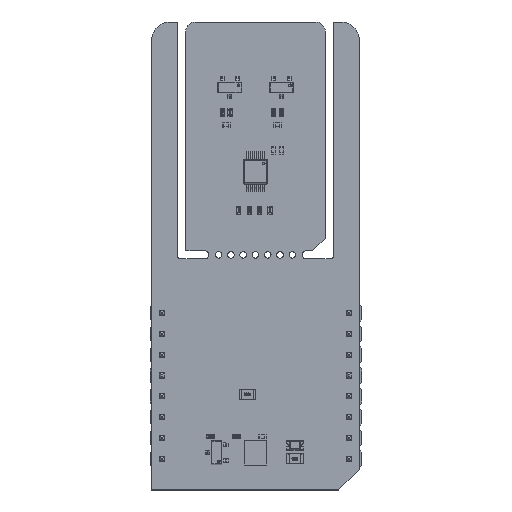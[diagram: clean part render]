
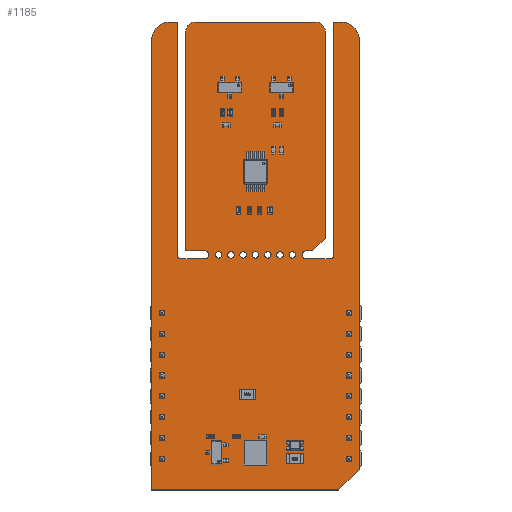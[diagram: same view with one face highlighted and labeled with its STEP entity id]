
A CAD part, top view. The second image highlights one B-rep face of the part: STEP entity #1185.
In plain terms, the highlighted planar face has unit normal (0, 0, 1).
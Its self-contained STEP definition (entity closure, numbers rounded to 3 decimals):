
#148 = VERTEX_POINT('',#149);
#149 = CARTESIAN_POINT('',(1.905,24.8,1.59));
#155 = EDGE_CURVE('',#148,#156,#158,.T.);
#156 = VERTEX_POINT('',#157);
#157 = CARTESIAN_POINT('',(2.305,24.4,1.59));
#158 = CIRCLE('',#159,0.399);
#159 = AXIS2_PLACEMENT_3D('',#160,#161,#162);
#160 = CARTESIAN_POINT('',(2.304,24.799,1.59));
#161 = DIRECTION('',(0.,0.,1.));
#162 = DIRECTION('',(-1.,0.001,0.));
#188 = EDGE_CURVE('',#156,#189,#191,.T.);
#189 = VERTEX_POINT('',#190);
#190 = CARTESIAN_POINT('',(5.23,24.4,1.59));
#191 = LINE('',#192,#193);
#192 = CARTESIAN_POINT('',(2.305,24.4,1.59));
#193 = VECTOR('',#194,1.);
#194 = DIRECTION('',(1.,0.,0.));
#219 = EDGE_CURVE('',#189,#220,#222,.T.);
#220 = VERTEX_POINT('',#221);
#221 = CARTESIAN_POINT('',(5.23,25.4,1.59));
#222 = CIRCLE('',#223,0.5);
#223 = AXIS2_PLACEMENT_3D('',#224,#225,#226);
#224 = CARTESIAN_POINT('',(5.23,24.9,1.59));
#225 = DIRECTION('',(0.,0.,1.));
#226 = DIRECTION('',(-0.,-1.,0.));
#252 = EDGE_CURVE('',#220,#253,#255,.T.);
#253 = VERTEX_POINT('',#254);
#254 = CARTESIAN_POINT('',(2.921,25.4,1.59));
#255 = LINE('',#256,#257);
#256 = CARTESIAN_POINT('',(5.23,25.4,1.59));
#257 = VECTOR('',#258,1.);
#258 = DIRECTION('',(-1.,0.,0.));
#283 = EDGE_CURVE('',#253,#284,#286,.T.);
#284 = VERTEX_POINT('',#285);
#285 = CARTESIAN_POINT('',(2.921,52.197,1.59));
#286 = LINE('',#287,#288);
#287 = CARTESIAN_POINT('',(2.921,25.4,1.59));
#288 = VECTOR('',#289,1.);
#289 = DIRECTION('',(0.,1.,0.));
#314 = EDGE_CURVE('',#284,#315,#317,.T.);
#315 = VERTEX_POINT('',#316);
#316 = CARTESIAN_POINT('',(4.064,53.34,1.59));
#317 = CIRCLE('',#318,1.144);
#318 = AXIS2_PLACEMENT_3D('',#319,#320,#321);
#319 = CARTESIAN_POINT('',(4.065,52.196,1.59));
#320 = DIRECTION('',(0.,0.,-1.));
#321 = DIRECTION('',(-1.,0.001,0.));
#347 = EDGE_CURVE('',#315,#348,#350,.T.);
#348 = VERTEX_POINT('',#349);
#349 = CARTESIAN_POINT('',(18.796,53.34,1.59));
#350 = LINE('',#351,#352);
#351 = CARTESIAN_POINT('',(4.064,53.34,1.59));
#352 = VECTOR('',#353,1.);
#353 = DIRECTION('',(1.,0.,0.));
#378 = EDGE_CURVE('',#348,#379,#381,.T.);
#379 = VERTEX_POINT('',#380);
#380 = CARTESIAN_POINT('',(19.939,52.197,1.59));
#381 = CIRCLE('',#382,1.144);
#382 = AXIS2_PLACEMENT_3D('',#383,#384,#385);
#383 = CARTESIAN_POINT('',(18.795,52.196,1.59));
#384 = DIRECTION('',(0.,0.,-1.));
#385 = DIRECTION('',(0.001,1.,0.));
#411 = EDGE_CURVE('',#379,#412,#414,.T.);
#412 = VERTEX_POINT('',#413);
#413 = CARTESIAN_POINT('',(19.939,26.924,1.59));
#414 = LINE('',#415,#416);
#415 = CARTESIAN_POINT('',(19.939,52.197,1.59));
#416 = VECTOR('',#417,1.);
#417 = DIRECTION('',(0.,-1.,0.));
#442 = EDGE_CURVE('',#412,#443,#445,.T.);
#443 = VERTEX_POINT('',#444);
#444 = CARTESIAN_POINT('',(18.415,25.4,1.59));
#445 = LINE('',#446,#447);
#446 = CARTESIAN_POINT('',(19.939,26.924,1.59));
#447 = VECTOR('',#448,1.);
#448 = DIRECTION('',(-0.707,-0.707,0.));
#473 = EDGE_CURVE('',#443,#474,#476,.T.);
#474 = VERTEX_POINT('',#475);
#475 = CARTESIAN_POINT('',(17.63,25.4,1.59));
#476 = LINE('',#477,#478);
#477 = CARTESIAN_POINT('',(18.415,25.4,1.59));
#478 = VECTOR('',#479,1.);
#479 = DIRECTION('',(-1.,0.,0.));
#504 = EDGE_CURVE('',#474,#505,#507,.T.);
#505 = VERTEX_POINT('',#506);
#506 = CARTESIAN_POINT('',(17.63,24.4,1.59));
#507 = CIRCLE('',#508,0.5);
#508 = AXIS2_PLACEMENT_3D('',#509,#510,#511);
#509 = CARTESIAN_POINT('',(17.63,24.9,1.59));
#510 = DIRECTION('',(0.,-0.,1.));
#511 = DIRECTION('',(0.,1.,0.));
#537 = EDGE_CURVE('',#505,#538,#540,.T.);
#538 = VERTEX_POINT('',#539);
#539 = CARTESIAN_POINT('',(20.555,24.4,1.59));
#540 = LINE('',#541,#542);
#541 = CARTESIAN_POINT('',(17.63,24.4,1.59));
#542 = VECTOR('',#543,1.);
#543 = DIRECTION('',(1.,0.,0.));
#568 = EDGE_CURVE('',#538,#569,#571,.T.);
#569 = VERTEX_POINT('',#570);
#570 = CARTESIAN_POINT('',(20.955,24.8,1.59));
#571 = CIRCLE('',#572,0.399);
#572 = AXIS2_PLACEMENT_3D('',#573,#574,#575);
#573 = CARTESIAN_POINT('',(20.556,24.799,1.59));
#574 = DIRECTION('',(0.,0.,1.));
#575 = DIRECTION('',(-0.001,-1.,0.));
#601 = EDGE_CURVE('',#569,#602,#604,.T.);
#602 = VERTEX_POINT('',#603);
#603 = CARTESIAN_POINT('',(20.955,53.34,1.59));
#604 = LINE('',#605,#606);
#605 = CARTESIAN_POINT('',(20.955,24.8,1.59));
#606 = VECTOR('',#607,1.);
#607 = DIRECTION('',(0.,1.,0.));
#632 = EDGE_CURVE('',#602,#633,#635,.T.);
#633 = VERTEX_POINT('',#634);
#634 = CARTESIAN_POINT('',(21.844,53.34,1.59));
#635 = LINE('',#636,#637);
#636 = CARTESIAN_POINT('',(20.955,53.34,1.59));
#637 = VECTOR('',#638,1.);
#638 = DIRECTION('',(1.,0.,0.));
#663 = EDGE_CURVE('',#633,#664,#666,.T.);
#664 = VERTEX_POINT('',#665);
#665 = CARTESIAN_POINT('',(24.13,51.054,1.59));
#666 = CIRCLE('',#667,2.288);
#667 = AXIS2_PLACEMENT_3D('',#668,#669,#670);
#668 = CARTESIAN_POINT('',(21.842,51.052,1.59));
#669 = DIRECTION('',(0.,0.,-1.));
#670 = DIRECTION('',(0.001,1.,0.));
#696 = EDGE_CURVE('',#664,#697,#699,.T.);
#697 = VERTEX_POINT('',#698);
#698 = CARTESIAN_POINT('',(24.13,-1.27,1.59));
#699 = LINE('',#700,#701);
#700 = CARTESIAN_POINT('',(24.13,51.054,1.59));
#701 = VECTOR('',#702,1.);
#702 = DIRECTION('',(0.,-1.,0.));
#727 = EDGE_CURVE('',#697,#728,#730,.T.);
#728 = VERTEX_POINT('',#729);
#729 = CARTESIAN_POINT('',(21.59,-3.81,1.59));
#730 = LINE('',#731,#732);
#731 = CARTESIAN_POINT('',(24.13,-1.27,1.59));
#732 = VECTOR('',#733,1.);
#733 = DIRECTION('',(-0.707,-0.707,0.));
#758 = EDGE_CURVE('',#728,#759,#761,.T.);
#759 = VERTEX_POINT('',#760);
#760 = CARTESIAN_POINT('',(-1.27,-3.81,1.59));
#761 = LINE('',#762,#763);
#762 = CARTESIAN_POINT('',(21.59,-3.81,1.59));
#763 = VECTOR('',#764,1.);
#764 = DIRECTION('',(-1.,0.,0.));
#789 = EDGE_CURVE('',#759,#790,#792,.T.);
#790 = VERTEX_POINT('',#791);
#791 = CARTESIAN_POINT('',(-1.27,51.054,1.59));
#792 = LINE('',#793,#794);
#793 = CARTESIAN_POINT('',(-1.27,-3.81,1.59));
#794 = VECTOR('',#795,1.);
#795 = DIRECTION('',(0.,1.,0.));
#820 = EDGE_CURVE('',#790,#821,#823,.T.);
#821 = VERTEX_POINT('',#822);
#822 = CARTESIAN_POINT('',(1.016,53.34,1.59));
#823 = CIRCLE('',#824,2.288);
#824 = AXIS2_PLACEMENT_3D('',#825,#826,#827);
#825 = CARTESIAN_POINT('',(1.018,51.052,1.59));
#826 = DIRECTION('',(0.,0.,-1.));
#827 = DIRECTION('',(-1.,0.001,0.));
#853 = EDGE_CURVE('',#821,#854,#856,.T.);
#854 = VERTEX_POINT('',#855);
#855 = CARTESIAN_POINT('',(1.905,53.34,1.59));
#856 = LINE('',#857,#858);
#857 = CARTESIAN_POINT('',(1.016,53.34,1.59));
#858 = VECTOR('',#859,1.);
#859 = DIRECTION('',(1.,0.,0.));
#884 = EDGE_CURVE('',#854,#148,#885,.T.);
#885 = LINE('',#886,#887);
#886 = CARTESIAN_POINT('',(1.905,53.34,1.59));
#887 = VECTOR('',#888,1.);
#888 = DIRECTION('',(0.,-1.,0.));
#908 = VERTEX_POINT('',#909);
#909 = CARTESIAN_POINT('',(7.33,24.9,1.59));
#915 = EDGE_CURVE('',#908,#908,#916,.T.);
#916 = CIRCLE('',#917,0.4);
#917 = AXIS2_PLACEMENT_3D('',#918,#919,#920);
#918 = CARTESIAN_POINT('',(6.93,24.9,1.59));
#919 = DIRECTION('',(0.,0.,1.));
#920 = DIRECTION('',(1.,0.,-0.));
#941 = VERTEX_POINT('',#942);
#942 = CARTESIAN_POINT('',(8.83,24.9,1.59));
#948 = EDGE_CURVE('',#941,#941,#949,.T.);
#949 = CIRCLE('',#950,0.4);
#950 = AXIS2_PLACEMENT_3D('',#951,#952,#953);
#951 = CARTESIAN_POINT('',(8.43,24.9,1.59));
#952 = DIRECTION('',(0.,0.,1.));
#953 = DIRECTION('',(1.,0.,-0.));
#974 = VERTEX_POINT('',#975);
#975 = CARTESIAN_POINT('',(10.33,24.9,1.59));
#981 = EDGE_CURVE('',#974,#974,#982,.T.);
#982 = CIRCLE('',#983,0.4);
#983 = AXIS2_PLACEMENT_3D('',#984,#985,#986);
#984 = CARTESIAN_POINT('',(9.93,24.9,1.59));
#985 = DIRECTION('',(0.,0.,1.));
#986 = DIRECTION('',(1.,0.,-0.));
#1007 = VERTEX_POINT('',#1008);
#1008 = CARTESIAN_POINT('',(14.83,24.9,1.59));
#1014 = EDGE_CURVE('',#1007,#1007,#1015,.T.);
#1015 = CIRCLE('',#1016,0.4);
#1016 = AXIS2_PLACEMENT_3D('',#1017,#1018,#1019);
#1017 = CARTESIAN_POINT('',(14.43,24.9,1.59));
#1018 = DIRECTION('',(0.,0.,1.));
#1019 = DIRECTION('',(1.,0.,-0.));
#1040 = VERTEX_POINT('',#1041);
#1041 = CARTESIAN_POINT('',(16.33,24.9,1.59));
#1047 = EDGE_CURVE('',#1040,#1040,#1048,.T.);
#1048 = CIRCLE('',#1049,0.4);
#1049 = AXIS2_PLACEMENT_3D('',#1050,#1051,#1052);
#1050 = CARTESIAN_POINT('',(15.93,24.9,1.59));
#1051 = DIRECTION('',(0.,0.,1.));
#1052 = DIRECTION('',(1.,0.,-0.));
#1073 = VERTEX_POINT('',#1074);
#1074 = CARTESIAN_POINT('',(11.83,24.9,1.59));
#1080 = EDGE_CURVE('',#1073,#1073,#1081,.T.);
#1081 = CIRCLE('',#1082,0.4);
#1082 = AXIS2_PLACEMENT_3D('',#1083,#1084,#1085);
#1083 = CARTESIAN_POINT('',(11.43,24.9,1.59));
#1084 = DIRECTION('',(0.,0.,1.));
#1085 = DIRECTION('',(1.,0.,-0.));
#1106 = VERTEX_POINT('',#1107);
#1107 = CARTESIAN_POINT('',(13.33,24.9,1.59));
#1113 = EDGE_CURVE('',#1106,#1106,#1114,.T.);
#1114 = CIRCLE('',#1115,0.4);
#1115 = AXIS2_PLACEMENT_3D('',#1116,#1117,#1118);
#1116 = CARTESIAN_POINT('',(12.93,24.9,1.59));
#1117 = DIRECTION('',(0.,0.,1.));
#1118 = DIRECTION('',(1.,0.,-0.));
#1185 = ADVANCED_FACE('',(#1186,#1212,#1215,#1218,#1221,#1224,#1227,
    #1230),#1233,.F.);
#1186 = FACE_BOUND('',#1187,.F.);
#1187 = EDGE_LOOP('',(#1188,#1189,#1190,#1191,#1192,#1193,#1194,#1195,
    #1196,#1197,#1198,#1199,#1200,#1201,#1202,#1203,#1204,#1205,#1206,
    #1207,#1208,#1209,#1210,#1211));
#1188 = ORIENTED_EDGE('',*,*,#155,.T.);
#1189 = ORIENTED_EDGE('',*,*,#188,.T.);
#1190 = ORIENTED_EDGE('',*,*,#219,.T.);
#1191 = ORIENTED_EDGE('',*,*,#252,.T.);
#1192 = ORIENTED_EDGE('',*,*,#283,.T.);
#1193 = ORIENTED_EDGE('',*,*,#314,.T.);
#1194 = ORIENTED_EDGE('',*,*,#347,.T.);
#1195 = ORIENTED_EDGE('',*,*,#378,.T.);
#1196 = ORIENTED_EDGE('',*,*,#411,.T.);
#1197 = ORIENTED_EDGE('',*,*,#442,.T.);
#1198 = ORIENTED_EDGE('',*,*,#473,.T.);
#1199 = ORIENTED_EDGE('',*,*,#504,.T.);
#1200 = ORIENTED_EDGE('',*,*,#537,.T.);
#1201 = ORIENTED_EDGE('',*,*,#568,.T.);
#1202 = ORIENTED_EDGE('',*,*,#601,.T.);
#1203 = ORIENTED_EDGE('',*,*,#632,.T.);
#1204 = ORIENTED_EDGE('',*,*,#663,.T.);
#1205 = ORIENTED_EDGE('',*,*,#696,.T.);
#1206 = ORIENTED_EDGE('',*,*,#727,.T.);
#1207 = ORIENTED_EDGE('',*,*,#758,.T.);
#1208 = ORIENTED_EDGE('',*,*,#789,.T.);
#1209 = ORIENTED_EDGE('',*,*,#820,.T.);
#1210 = ORIENTED_EDGE('',*,*,#853,.T.);
#1211 = ORIENTED_EDGE('',*,*,#884,.T.);
#1212 = FACE_BOUND('',#1213,.F.);
#1213 = EDGE_LOOP('',(#1214));
#1214 = ORIENTED_EDGE('',*,*,#915,.T.);
#1215 = FACE_BOUND('',#1216,.F.);
#1216 = EDGE_LOOP('',(#1217));
#1217 = ORIENTED_EDGE('',*,*,#948,.T.);
#1218 = FACE_BOUND('',#1219,.F.);
#1219 = EDGE_LOOP('',(#1220));
#1220 = ORIENTED_EDGE('',*,*,#981,.T.);
#1221 = FACE_BOUND('',#1222,.F.);
#1222 = EDGE_LOOP('',(#1223));
#1223 = ORIENTED_EDGE('',*,*,#1014,.T.);
#1224 = FACE_BOUND('',#1225,.F.);
#1225 = EDGE_LOOP('',(#1226));
#1226 = ORIENTED_EDGE('',*,*,#1047,.T.);
#1227 = FACE_BOUND('',#1228,.F.);
#1228 = EDGE_LOOP('',(#1229));
#1229 = ORIENTED_EDGE('',*,*,#1080,.T.);
#1230 = FACE_BOUND('',#1231,.F.);
#1231 = EDGE_LOOP('',(#1232));
#1232 = ORIENTED_EDGE('',*,*,#1113,.T.);
#1233 = PLANE('',#1234);
#1234 = AXIS2_PLACEMENT_3D('',#1235,#1236,#1237);
#1235 = CARTESIAN_POINT('',(11.331,30.13,1.59));
#1236 = DIRECTION('',(-0.,-0.,-1.));
#1237 = DIRECTION('',(-1.,0.,0.));
